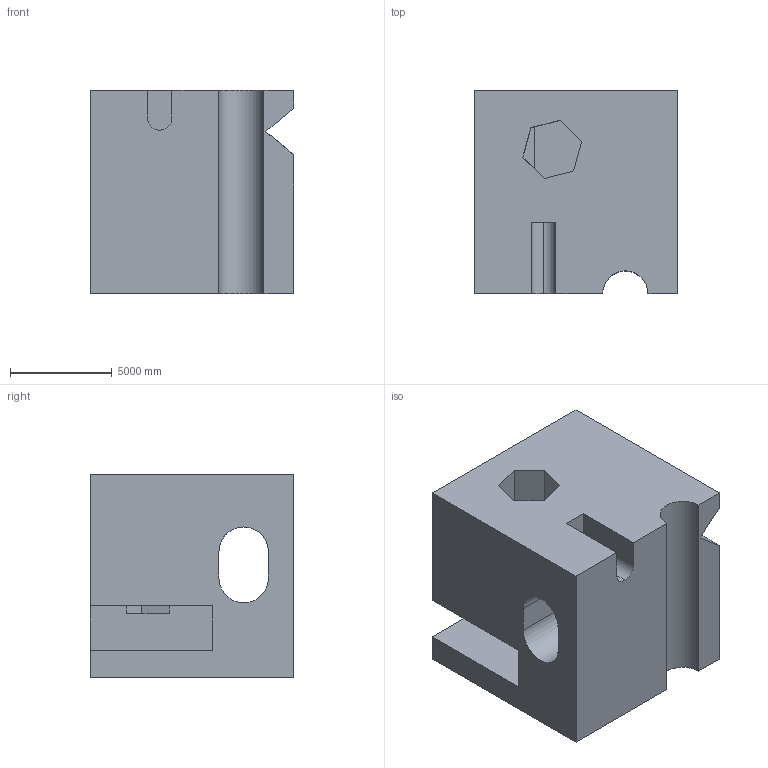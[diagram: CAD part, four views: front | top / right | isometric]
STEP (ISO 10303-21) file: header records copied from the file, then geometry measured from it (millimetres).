
FILE_DESCRIPTION (( 'STEP AP203' ), '1' );
FILE_NAME ('1562.STEP', '2022-08-25T15:09:22', ( 'user' ), ( '' ), 'SwSTEP 2.0', 'SolidWorks 2021', '' );
FILE_SCHEMA (( 'CONFIG_CONTROL_DESIGN' ));
Length unit declared in the file: centimetre
Products named in the file (1): 1562
Bounding box: 10000 x 10000 x 10000 mm (x, y, z)
Volume: 800897635586.5 mm3; surface area: 809411570.5 mm2
Topology: 1 solids, 1 shells, 32 faces, 96 edges, 64 vertices
Faces by surface type: plane 26, cylinder 6
Entity records: 1157 total; most frequent: CARTESIAN_POINT 199, ORIENTED_EDGE 192, DIRECTION 172, EDGE_CURVE 96, LINE 82, VECTOR 82, VERTEX_POINT 64, AXIS2_PLACEMENT_3D 45
